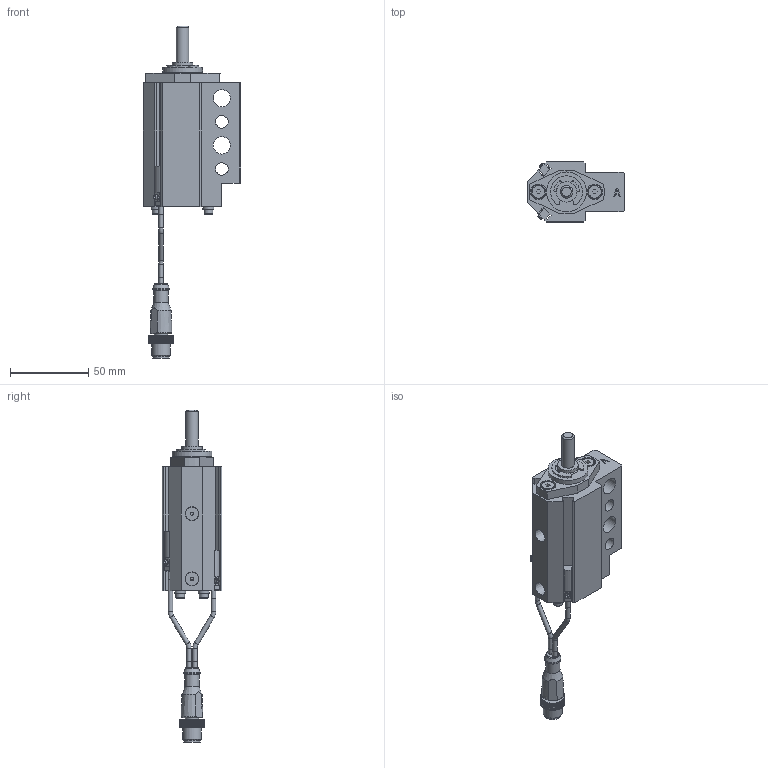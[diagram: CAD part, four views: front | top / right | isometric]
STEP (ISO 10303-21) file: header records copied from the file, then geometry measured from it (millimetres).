
FILE_DESCRIPTION(/* description */ ('NAAMS FLOATING MICRO PIN'),/* implementation_level */ '2;1');
FILE_NAME(/* name */ 'C:\Vault Workspace\CAD\Welker\Shot Pin\NMP\NMP080022EANL3.stp',/* time_stamp */ '2021-01-28T11:51:54-05:00',/* author */ ('WELKER'),/* organization */ (''),/* preprocessor_version */ 'ST-DEVELOPER v18.1',/* originating_system */ 'Autodesk Inventor 2020',/* authorisation */ '');
FILE_SCHEMA (('AUTOMOTIVE_DESIGN { 1 0 10303 214 3 1 1 }'));
Length unit declared in the file: millimetre
Products named in the file (16): NMPL01; NMP L3 SWITCH; L3 Connector; L3 Sensor 1; L3 Sensor 2; L3 Sensor cable; L3 Sensor cable 2; M3X0.5-8 SHCS; NL3; NMPE06; NMPE03; NMPE04-DIA-LENGTH; 985432A218; NMPE01A-PORT; RMPE02; M5X5 SHOULDER
Assembly tree (22 placements, depth 3):
  NMPL01
    NMP L3 SWITCH
      L3 Connector
      L3 Sensor 1
      L3 Sensor 2
      L3 Sensor cable
      L3 Sensor cable 2
    M3X0.5-8 SHCS  x4
    NL3  x4
    NMPE06
    NMPE03
    NMPE04-DIA-LENGTH
    985432A218
    NMPE01A-PORT
    RMPE02
    M5X5 SHOULDER  x2
Bounding box: 62 x 38.1 x 211.52 mm (x, y, z)
Volume: 108961.1 mm3; surface area: 45617.3 mm2
Topology: 21 solids, 21 shells, 744 faces, 2015 edges, 1346 vertices
Faces by surface type: plane 554, cylinder 144, cone 31, torus 11, bspline 2, sphere 2
Full cylindrical faces by diameter (mm): 2 x2, 2.459 x4, 2.9 x10, 3 x5, 3.242 x2, 3.4 x4, 4 x2, 5 x6, 5.5 x4, 7 x4, 8 x3, 8.3 x2, 9 x3, 10 x3, 10.4 x1, 10.5 x1, 11 x2, 12 x1, 13 x3, 16 x2, 19.05 x3, 21 x1, 22.5 x1, 23.672 x1, 24 x1, 25.4 x1, 25.5 x1, 26.5 x1, 28.677 x1, 29.21 x1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
Entity records: 22722 total; most frequent: CARTESIAN_POINT 4149, ORIENTED_EDGE 3728, DIRECTION 3711, EDGE_CURVE 1864, LINE 1383, VECTOR 1383, VERTEX_POINT 1251, AXIS2_PLACEMENT_3D 1164
